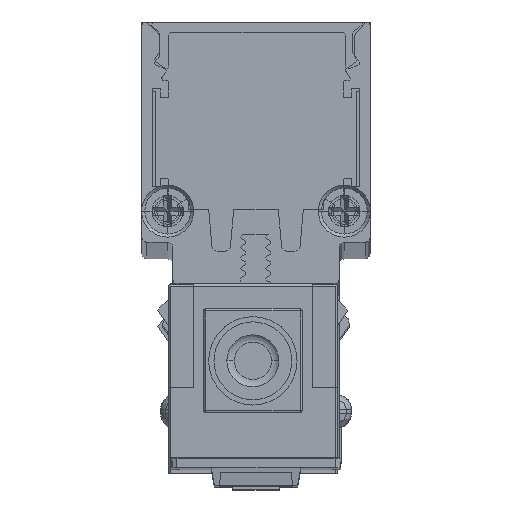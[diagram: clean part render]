
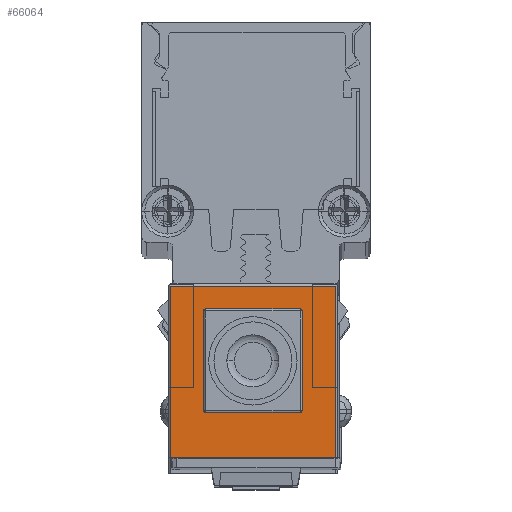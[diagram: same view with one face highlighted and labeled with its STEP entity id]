
A CAD part, top view. The second image highlights one B-rep face of the part: STEP entity #66064.
In plain terms, the highlighted planar face has unit normal (0, 0, 1) as drawn and (-1, 0, 0) by its records, which use the part's own axes.
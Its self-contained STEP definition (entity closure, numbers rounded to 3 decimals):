
#96 = AXIS2_PLACEMENT_3D ( 'NONE', #80562, #39896, #87429 ) ;
#409 = CARTESIAN_POINT ( 'NONE',  ( -6.5, 4.75, 12.2 ) ) ;
#938 = CARTESIAN_POINT ( 'NONE',  ( -6.5, -4.55, 12.2 ) ) ;
#1115 = DIRECTION ( 'NONE',  ( 0., 0., 1. ) ) ;
#3889 = CARTESIAN_POINT ( 'NONE',  ( -6.5, 4.75, 12.4 ) ) ;
#4242 = VECTOR ( 'NONE', #49496, 1000. ) ;
#5318 = AXIS2_PLACEMENT_3D ( 'NONE', #75305, #34616, #82117 ) ;
#5663 = VECTOR ( 'NONE', #49257, 1000. ) ;
#6958 = VECTOR ( 'NONE', #1115, 1000. ) ;
#7772 = DIRECTION ( 'NONE',  ( 0., 1., 0. ) ) ;
#8695 = ORIENTED_EDGE ( 'NONE', *, *, #33635, .F. ) ;
#8794 = CARTESIAN_POINT ( 'NONE',  ( -6.5, 8.15, 0.2 ) ) ;
#8952 = VERTEX_POINT ( 'NONE', #85780 ) ;
#9896 = CARTESIAN_POINT ( 'NONE',  ( -6.5, -4.75, 2.6 ) ) ;
#11546 = DIRECTION ( 'NONE',  ( 0., -1., 0. ) ) ;
#12238 = ORIENTED_EDGE ( 'NONE', *, *, #76561, .F. ) ;
#13855 = CARTESIAN_POINT ( 'NONE',  ( -6.5, -4.55, 2.4 ) ) ;
#14525 = EDGE_CURVE ( 'NONE', #70307, #76008, #17869, .T. ) ;
#16097 = CARTESIAN_POINT ( 'NONE',  ( -6.5, 8.15, 16.7 ) ) ;
#17070 = LINE ( 'NONE', #86077, #51036 ) ;
#17869 = CIRCLE ( 'NONE', #85989, 0.2 ) ;
#18078 = LINE ( 'NONE', #8794, #4242 ) ;
#18755 = ORIENTED_EDGE ( 'NONE', *, *, #14525, .T. ) ;
#18880 = CARTESIAN_POINT ( 'NONE',  ( -6.5, -7.95, 16.7 ) ) ;
#20170 = ORIENTED_EDGE ( 'NONE', *, *, #73067, .T. ) ;
#20205 = ORIENTED_EDGE ( 'NONE', *, *, #82056, .T. ) ;
#22345 = CARTESIAN_POINT ( 'NONE',  ( -6.5, 4.55, 2.6 ) ) ;
#22909 = DIRECTION ( 'NONE',  ( 1., 0., 0. ) ) ;
#24090 = LINE ( 'NONE', #64329, #76093 ) ;
#25561 = LINE ( 'NONE', #3889, #39315 ) ;
#26011 = DIRECTION ( 'NONE',  ( 0., 0., -1. ) ) ;
#28501 = EDGE_CURVE ( 'NONE', #8952, #53562, #18078, .T. ) ;
#29145 = DIRECTION ( 'NONE',  ( 0., 1., 0. ) ) ;
#29280 = LINE ( 'NONE', #48937, #6958 ) ;
#30564 = DIRECTION ( 'NONE',  ( 0., 0., -1. ) ) ;
#30581 = DIRECTION ( 'NONE',  ( 0., 0., 1. ) ) ;
#31287 = CARTESIAN_POINT ( 'NONE',  ( -6.5, 4.75, 2.6 ) ) ;
#33635 = EDGE_CURVE ( 'NONE', #52582, #76008, #29280, .T. ) ;
#34616 = DIRECTION ( 'NONE',  ( 1., 0., 0. ) ) ;
#34944 = EDGE_CURVE ( 'NONE', #53562, #40806, #86556, .T. ) ;
#37126 = CARTESIAN_POINT ( 'NONE',  ( -6.5, -4.55, 12.4 ) ) ;
#37745 = VECTOR ( 'NONE', #26011, 1000. ) ;
#38805 = CARTESIAN_POINT ( 'NONE',  ( -6.5, 7.95, 16.7 ) ) ;
#39315 = VECTOR ( 'NONE', #44538, 1000. ) ;
#39877 = LINE ( 'NONE', #80291, #37745 ) ;
#39896 = DIRECTION ( 'NONE',  ( 1., 0., 0. ) ) ;
#40806 = VERTEX_POINT ( 'NONE', #18880 ) ;
#41787 = LINE ( 'NONE', #42401, #5663 ) ;
#42401 = CARTESIAN_POINT ( 'NONE',  ( -6.5, 8.15, 16.7 ) ) ;
#42587 = ORIENTED_EDGE ( 'NONE', *, *, #45254, .F. ) ;
#43260 = CARTESIAN_POINT ( 'NONE',  ( -6.5, 4.55, 2.4 ) ) ;
#43375 = CIRCLE ( 'NONE', #5318, 0.2 ) ;
#44538 = DIRECTION ( 'NONE',  ( 0., 1., 0. ) ) ;
#45254 = EDGE_CURVE ( 'NONE', #69096, #83423, #17070, .T. ) ;
#46490 = EDGE_LOOP ( 'NONE', ( #70208, #18755, #8695, #46502, #42587, #67884, #12238, #20205 ) ) ;
#46502 = ORIENTED_EDGE ( 'NONE', *, *, #83418, .T. ) ;
#46825 = FACE_BOUND ( 'NONE', #46490, .T. ) ;
#48289 = AXIS2_PLACEMENT_3D ( 'NONE', #16097, #22909, #70354 ) ;
#48334 = CARTESIAN_POINT ( 'NONE',  ( -6.5, -7.95, 0.2 ) ) ;
#48457 = DIRECTION ( 'NONE',  ( 1., 0., 0. ) ) ;
#48937 = CARTESIAN_POINT ( 'NONE',  ( -6.5, -4.75, 2.4 ) ) ;
#49257 = DIRECTION ( 'NONE',  ( 0., -1., 0. ) ) ;
#49496 = DIRECTION ( 'NONE',  ( 0., -1., 0. ) ) ;
#51036 = VECTOR ( 'NONE', #11546, 1000. ) ;
#52582 = VERTEX_POINT ( 'NONE', #9896 ) ;
#53562 = VERTEX_POINT ( 'NONE', #48334 ) ;
#55671 = ORIENTED_EDGE ( 'NONE', *, *, #28501, .T. ) ;
#56684 = PLANE ( 'NONE',  #48289 ) ;
#59317 = ORIENTED_EDGE ( 'NONE', *, *, #34944, .T. ) ;
#59994 = VERTEX_POINT ( 'NONE', #38805 ) ;
#61351 = VERTEX_POINT ( 'NONE', #409 ) ;
#63348 = VERTEX_POINT ( 'NONE', #86537 ) ;
#64329 = CARTESIAN_POINT ( 'NONE',  ( -6.5, 4.75, 2.4 ) ) ;
#65581 = VERTEX_POINT ( 'NONE', #31287 ) ;
#66064 = ADVANCED_FACE ( 'NONE', ( #80786, #46825 ), #56684, .F. ) ;
#67691 = EDGE_CURVE ( 'NONE', #69096, #65581, #75184, .T. ) ;
#67884 = ORIENTED_EDGE ( 'NONE', *, *, #67691, .T. ) ;
#68418 = VECTOR ( 'NONE', #30581, 1000. ) ;
#69096 = VERTEX_POINT ( 'NONE', #43260 ) ;
#69789 = DIRECTION ( 'NONE',  ( 1., 0., 0. ) ) ;
#70208 = ORIENTED_EDGE ( 'NONE', *, *, #80178, .F. ) ;
#70307 = VERTEX_POINT ( 'NONE', #37126 ) ;
#70354 = DIRECTION ( 'NONE',  ( 0., 1., 0. ) ) ;
#71646 = AXIS2_PLACEMENT_3D ( 'NONE', #22345, #69789, #29145 ) ;
#73067 = EDGE_CURVE ( 'NONE', #59994, #8952, #39877, .T. ) ;
#75184 = CIRCLE ( 'NONE', #71646, 0.2 ) ;
#75305 = CARTESIAN_POINT ( 'NONE',  ( -6.5, -4.55, 2.6 ) ) ;
#76008 = VERTEX_POINT ( 'NONE', #84797 ) ;
#76093 = VECTOR ( 'NONE', #30564, 1000. ) ;
#76561 = EDGE_CURVE ( 'NONE', #61351, #65581, #24090, .T. ) ;
#77461 = CARTESIAN_POINT ( 'NONE',  ( -6.5, -7.95, 16.7 ) ) ;
#80178 = EDGE_CURVE ( 'NONE', #70307, #63348, #25561, .T. ) ;
#80283 = EDGE_LOOP ( 'NONE', ( #20170, #55671, #59317, #82612 ) ) ;
#80291 = CARTESIAN_POINT ( 'NONE',  ( -6.5, 7.95, 16.7 ) ) ;
#80562 = CARTESIAN_POINT ( 'NONE',  ( -6.5, 4.55, 12.2 ) ) ;
#80786 = FACE_OUTER_BOUND ( 'NONE', #80283, .T. ) ;
#82056 = EDGE_CURVE ( 'NONE', #61351, #63348, #84010, .T. ) ;
#82117 = DIRECTION ( 'NONE',  ( 0., 1., 0. ) ) ;
#82612 = ORIENTED_EDGE ( 'NONE', *, *, #85408, .F. ) ;
#83418 = EDGE_CURVE ( 'NONE', #52582, #83423, #43375, .T. ) ;
#83423 = VERTEX_POINT ( 'NONE', #13855 ) ;
#84010 = CIRCLE ( 'NONE', #96, 0.2 ) ;
#84797 = CARTESIAN_POINT ( 'NONE',  ( -6.5, -4.75, 12.2 ) ) ;
#85408 = EDGE_CURVE ( 'NONE', #59994, #40806, #41787, .T. ) ;
#85780 = CARTESIAN_POINT ( 'NONE',  ( -6.5, 7.95, 0.2 ) ) ;
#85989 = AXIS2_PLACEMENT_3D ( 'NONE', #938, #48457, #7772 ) ;
#86077 = CARTESIAN_POINT ( 'NONE',  ( -6.5, 4.75, 2.4 ) ) ;
#86537 = CARTESIAN_POINT ( 'NONE',  ( -6.5, 4.55, 12.4 ) ) ;
#86556 = LINE ( 'NONE', #77461, #68418 ) ;
#87429 = DIRECTION ( 'NONE',  ( 0., 1., 0. ) ) ;
